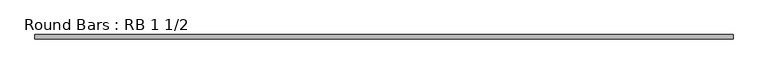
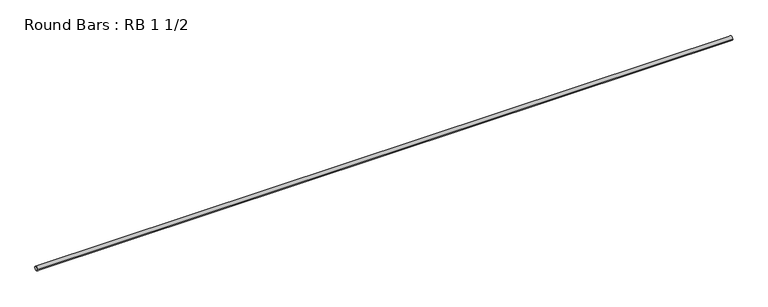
"""IFC4 building model written with IfcOpenShell, lengths in millimetres: member geometry, Round Bars : RB 1 1/2."""

from ifc_helpers import new_model, si_unit, point, frame, origin, origin_2d, place, context, project, spatial, circle_curve, trimmed, segment, composite_curve, outline, extrude, source, transform, mapped, element, save


def round_bars_rb_1_1_2_74efebb1(model_context):
    return source(origin(), model_context, "Body", "SweptSolid", [
        extrude(outline(composite_curve([segment(trimmed(circle_curve(origin_2d(), 19.05), [point((19.05, 0.0))], [point((-19.05, 0.0))], False, "CARTESIAN"), True, "CONTINUOUS"), segment(trimmed(circle_curve(origin_2d(), 19.05), [point((-19.05, 0.0))], [point((19.05, 0.0))], False, "CARTESIAN"), True, "CONTINUOUS")], self_intersect=False)), frame((-3140.8166538, 0.0, 0.0), z_axis=(1.0, 0.0, 0.0), x_axis=(0.0, 1.0, 0.0)), (0.0, 0.0, 1.0), 6243.8792801),
    ])


if __name__ == "__main__":
    model = new_model("IFC4")
    model_context = context("Model", 3, world=origin())
    ifc_project = project(units=[si_unit("LENGTHUNIT", "METRE", prefix="MILLI")], contexts=[model_context])
    site = spatial("IfcSite", under=ifc_project)
    building = spatial("IfcBuilding", under=site)
    placement = place(None, origin())
    round_bars_rb_1_1_2_shape = round_bars_rb_1_1_2_74efebb1(model_context)
    element("IfcMember", 1, ObjectType="Round Bars : RB 1 1/2", at=placement, inside=building, context=model_context, shape_type="MappedRepresentation", body=[
        mapped(round_bars_rb_1_1_2_shape, transform((0.0, 0.0, 0.0), x_axis=(1.0, 0.0, 0.0), y_axis=(0.0, 1.0, 0.0), z_axis=(0.0, 0.0, 1.0))),
    ])
    save(model, "model.ifc")
